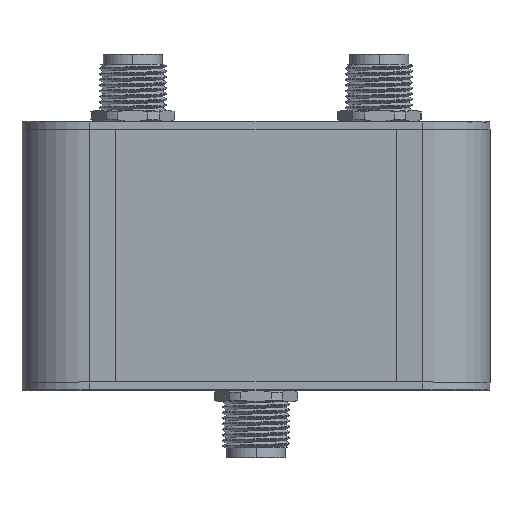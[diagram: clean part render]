
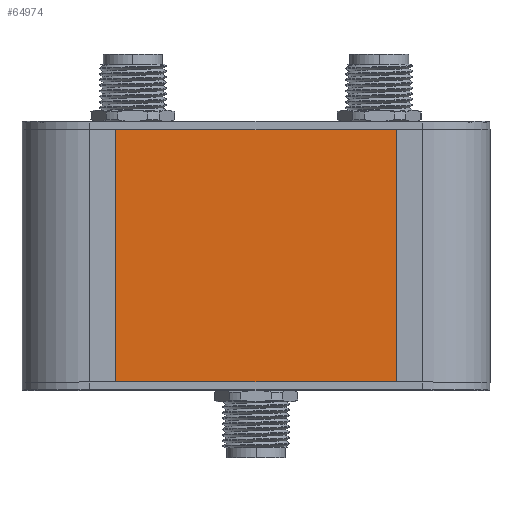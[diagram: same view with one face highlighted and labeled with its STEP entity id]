
A CAD part, top view. The second image highlights one B-rep face of the part: STEP entity #64974.
In plain terms, the highlighted planar face has unit normal (0, 0, 1).
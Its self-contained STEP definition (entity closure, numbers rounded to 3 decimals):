
#371 = CARTESIAN_POINT ( 'NONE',  ( -219.601, 40.26, 33.945 ) ) ;
#513 = CARTESIAN_POINT ( 'NONE',  ( -219.601, 40.26, 33.945 ) ) ;
#2141 = FACE_OUTER_BOUND ( 'NONE', #22787, .T. ) ;
#5122 = VERTEX_POINT ( 'NONE', #513 ) ;
#11548 = EDGE_CURVE ( 'NONE', #72360, #5122, #81258, .T. ) ;
#18237 = LINE ( 'NONE', #59980, #19830 ) ;
#19830 = VECTOR ( 'NONE', #66500, 1000. ) ;
#21202 = VERTEX_POINT ( 'NONE', #22728 ) ;
#22728 = CARTESIAN_POINT ( 'NONE',  ( -219.601, 85.26, 33.945 ) ) ;
#22787 = EDGE_LOOP ( 'NONE', ( #54515, #30311, #63537, #81988 ) ) ;
#26419 = CARTESIAN_POINT ( 'NONE',  ( -219.601, 40.26, 33.945 ) ) ;
#26753 = CARTESIAN_POINT ( 'NONE',  ( -169.601, 40.26, 33.945 ) ) ;
#30278 = VECTOR ( 'NONE', #83402, 1000. ) ;
#30311 = ORIENTED_EDGE ( 'NONE', *, *, #39163, .F. ) ;
#32314 = EDGE_CURVE ( 'NONE', #57637, #21202, #18237, .T. ) ;
#32813 = DIRECTION ( 'NONE',  ( 0., 0., -1. ) ) ;
#33090 = PLANE ( 'NONE',  #62015 ) ;
#34660 = CARTESIAN_POINT ( 'NONE',  ( -169.601, 85.26, 33.945 ) ) ;
#39163 = EDGE_CURVE ( 'NONE', #5122, #21202, #62925, .T. ) ;
#41862 = CARTESIAN_POINT ( 'NONE',  ( -169.601, 40.26, 33.945 ) ) ;
#54515 = ORIENTED_EDGE ( 'NONE', *, *, #32314, .T. ) ;
#57133 = VECTOR ( 'NONE', #71610, 1000. ) ;
#57637 = VERTEX_POINT ( 'NONE', #34660 ) ;
#59980 = CARTESIAN_POINT ( 'NONE',  ( -219.601, 85.26, 33.945 ) ) ;
#61088 = CARTESIAN_POINT ( 'NONE',  ( -219.601, 40.26, 33.945 ) ) ;
#62015 = AXIS2_PLACEMENT_3D ( 'NONE', #371, #32813, #77944 ) ;
#62925 = LINE ( 'NONE', #61088, #71999 ) ;
#63537 = ORIENTED_EDGE ( 'NONE', *, *, #11548, .F. ) ;
#64974 = ADVANCED_FACE ( 'NONE', ( #2141 ), #33090, .F. ) ;
#66469 = DIRECTION ( 'NONE',  ( 0., 1., 0. ) ) ;
#66500 = DIRECTION ( 'NONE',  ( -1., 0., 0. ) ) ;
#71610 = DIRECTION ( 'NONE',  ( -1., 0., 0. ) ) ;
#71999 = VECTOR ( 'NONE', #66469, 1000. ) ;
#72360 = VERTEX_POINT ( 'NONE', #41862 ) ;
#75184 = EDGE_CURVE ( 'NONE', #72360, #57637, #83722, .T. ) ;
#77944 = DIRECTION ( 'NONE',  ( 0., 1., 0. ) ) ;
#81258 = LINE ( 'NONE', #26419, #57133 ) ;
#81988 = ORIENTED_EDGE ( 'NONE', *, *, #75184, .T. ) ;
#83402 = DIRECTION ( 'NONE',  ( 0., 1., 0. ) ) ;
#83722 = LINE ( 'NONE', #26753, #30278 ) ;
